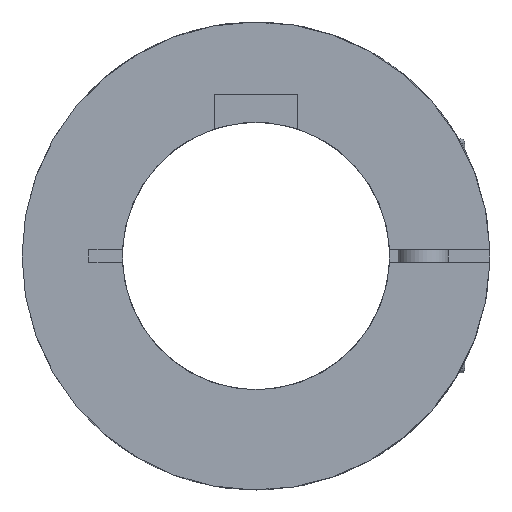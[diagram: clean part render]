
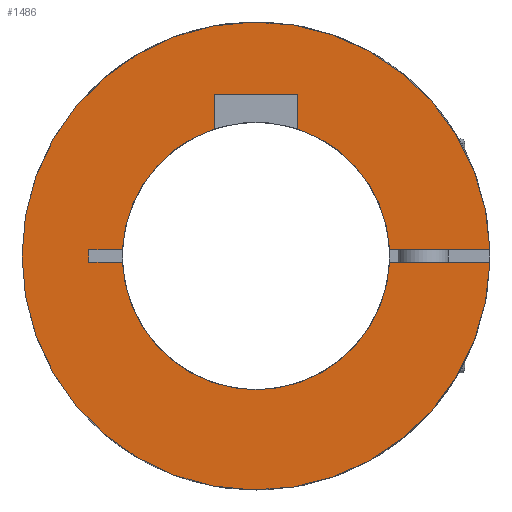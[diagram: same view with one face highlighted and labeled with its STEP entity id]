
A CAD part, left-side view. The second image highlights one B-rep face of the part: STEP entity #1486.
In plain terms, the highlighted planar face has unit normal (-1, 0, 0).
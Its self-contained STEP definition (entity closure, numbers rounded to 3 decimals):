
#23=PLANE('',#1691);
#140=LINE('',#2654,#251);
#143=LINE('',#2660,#254);
#144=LINE('',#2662,#255);
#154=LINE('',#2681,#265);
#157=LINE('',#2686,#268);
#159=LINE('',#2689,#270);
#160=LINE('',#2691,#271);
#161=LINE('',#2692,#272);
#251=VECTOR('',#2036,1.);
#254=VECTOR('',#2041,1.);
#255=VECTOR('',#2044,1.);
#265=VECTOR('',#2062,14.047);
#268=VECTOR('',#2067,22.037);
#270=VECTOR('',#2071,22.037);
#271=VECTOR('',#2072,14.047);
#272=VECTOR('',#2073,1.5);
#384=FACE_OUTER_BOUND('',#477,.T.);
#477=EDGE_LOOP('',(#1216,#1217,#1218,#1219,#1220,#1221,#1222,#1223,#1224,
#1225,#1226,#1227));
#606=CIRCLE('',#1631,28.);
#638=CIRCLE('',#1677,16.);
#640=CIRCLE('',#1679,16.);
#641=CIRCLE('',#1681,16.);
#696=VERTEX_POINT('',#2436);
#697=VERTEX_POINT('',#2438);
#741=VERTEX_POINT('',#2627);
#742=VERTEX_POINT('',#2629);
#745=VERTEX_POINT('',#2635);
#746=VERTEX_POINT('',#2637);
#747=VERTEX_POINT('',#2641);
#748=VERTEX_POINT('',#2642);
#752=VERTEX_POINT('',#2652);
#754=VERTEX_POINT('',#2658);
#759=VERTEX_POINT('',#2680);
#761=VERTEX_POINT('',#2690);
#861=EDGE_CURVE('',#697,#696,#606,.T.);
#917=EDGE_CURVE('',#742,#741,#638,.T.);
#921=EDGE_CURVE('',#746,#745,#640,.T.);
#923=EDGE_CURVE('',#747,#748,#641,.T.);
#929=EDGE_CURVE('',#745,#752,#140,.T.);
#932=EDGE_CURVE('',#752,#754,#143,.T.);
#933=EDGE_CURVE('',#754,#742,#144,.T.);
#943=EDGE_CURVE('',#759,#746,#154,.T.);
#946=EDGE_CURVE('',#696,#747,#157,.T.);
#948=EDGE_CURVE('',#741,#697,#159,.T.);
#949=EDGE_CURVE('',#761,#748,#160,.T.);
#950=EDGE_CURVE('',#759,#761,#161,.T.);
#1216=ORIENTED_EDGE('',*,*,#921,.T.);
#1217=ORIENTED_EDGE('',*,*,#929,.T.);
#1218=ORIENTED_EDGE('',*,*,#932,.T.);
#1219=ORIENTED_EDGE('',*,*,#933,.T.);
#1220=ORIENTED_EDGE('',*,*,#917,.T.);
#1221=ORIENTED_EDGE('',*,*,#948,.T.);
#1222=ORIENTED_EDGE('',*,*,#861,.T.);
#1223=ORIENTED_EDGE('',*,*,#946,.T.);
#1224=ORIENTED_EDGE('',*,*,#923,.T.);
#1225=ORIENTED_EDGE('',*,*,#949,.F.);
#1226=ORIENTED_EDGE('',*,*,#950,.F.);
#1227=ORIENTED_EDGE('',*,*,#943,.T.);
#1486=ADVANCED_FACE('',(#384),#23,.T.);
#1631=AXIS2_PLACEMENT_3D('',#2439,#1903,#1904);
#1677=AXIS2_PLACEMENT_3D('',#2630,#2015,#2016);
#1679=AXIS2_PLACEMENT_3D('',#2638,#2021,#2022);
#1681=AXIS2_PLACEMENT_3D('',#2643,#2026,#2027);
#1691=AXIS2_PLACEMENT_3D('',#2688,#2069,#2070);
#1903=DIRECTION('center_axis',(-1.,0.,0.));
#1904=DIRECTION('ref_axis',(0.,1.,0.));
#2015=DIRECTION('center_axis',(1.,0.,0.));
#2016=DIRECTION('ref_axis',(0.,0.,1.));
#2021=DIRECTION('center_axis',(1.,0.,0.));
#2022=DIRECTION('ref_axis',(0.,0.,1.));
#2026=DIRECTION('center_axis',(1.,0.,0.));
#2027=DIRECTION('ref_axis',(0.,0.,1.));
#2036=DIRECTION('',(0.,0.,1.));
#2041=DIRECTION('',(0.,-1.,0.));
#2044=DIRECTION('',(0.,0.,-1.));
#2062=DIRECTION('',(0.,-1.,0.));
#2067=DIRECTION('',(0.,1.,0.));
#2069=DIRECTION('center_axis',(-1.,0.,0.));
#2070=DIRECTION('ref_axis',(0.,-1.,0.));
#2071=DIRECTION('',(0.,-1.,0.));
#2072=DIRECTION('',(0.,-1.,0.));
#2073=DIRECTION('',(0.,0.,-1.));
#2436=CARTESIAN_POINT('',(0.,-27.99,-0.75));
#2438=CARTESIAN_POINT('',(0.,-27.99,0.75));
#2439=CARTESIAN_POINT('Origin',(0.,0.,0.));
#2627=CARTESIAN_POINT('',(0.,-15.982,0.75));
#2629=CARTESIAN_POINT('',(0.,-5.,15.199));
#2630=CARTESIAN_POINT('Origin',(0.,0.,0.));
#2635=CARTESIAN_POINT('',(0.,5.,15.199));
#2637=CARTESIAN_POINT('',(0.,15.982,0.75));
#2638=CARTESIAN_POINT('Origin',(0.,0.,0.));
#2641=CARTESIAN_POINT('',(0.,-15.982,-0.75));
#2642=CARTESIAN_POINT('',(0.,15.982,-0.75));
#2643=CARTESIAN_POINT('Origin',(0.,0.,0.));
#2652=CARTESIAN_POINT('',(0.,5.,19.3));
#2654=CARTESIAN_POINT('',(0.,5.,1.825));
#2658=CARTESIAN_POINT('',(0.,-5.,19.3));
#2660=CARTESIAN_POINT('',(0.,0.,19.3));
#2662=CARTESIAN_POINT('',(0.,-5.,1.825));
#2680=CARTESIAN_POINT('',(0.,20.,0.75));
#2681=CARTESIAN_POINT('',(0.,20.,0.75));
#2686=CARTESIAN_POINT('',(0.,-27.99,-0.75));
#2688=CARTESIAN_POINT('Origin',(0.,0.,-6.));
#2689=CARTESIAN_POINT('',(0.,-5.953,0.75));
#2690=CARTESIAN_POINT('',(0.,20.,-0.75));
#2691=CARTESIAN_POINT('',(0.,20.,-0.75));
#2692=CARTESIAN_POINT('',(0.,20.,0.75));
